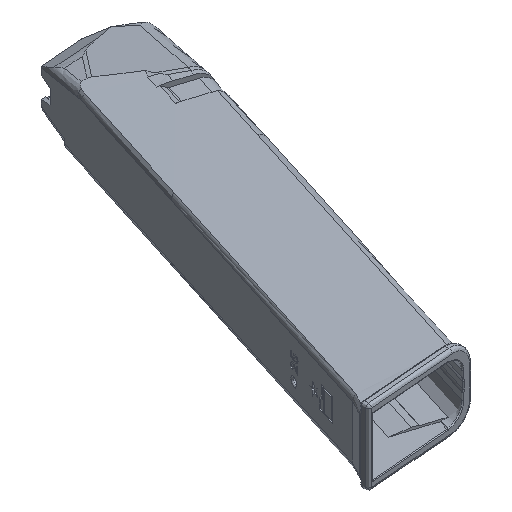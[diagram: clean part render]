
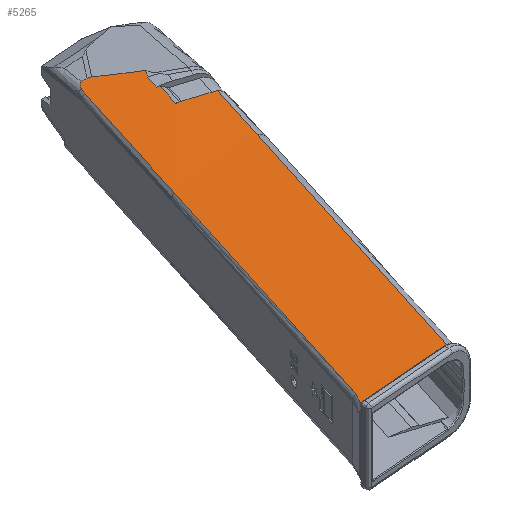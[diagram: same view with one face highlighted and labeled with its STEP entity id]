
A CAD part, isometric view. The second image highlights one B-rep face of the part: STEP entity #5265.
In plain terms, the highlighted cylindrical face has radius 941.89 mm (diameter 1883.78 mm), a partial arc.
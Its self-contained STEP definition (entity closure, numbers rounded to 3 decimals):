
#104=CYLINDRICAL_SURFACE('',#5615,941.89);
#227=ELLIPSE('',#5588,1016.388,941.89);
#237=ELLIPSE('',#5616,945.656,941.89);
#238=ELLIPSE('',#5617,945.656,941.89);
#239=ELLIPSE('',#5618,3587.87,941.89);
#240=ELLIPSE('',#5619,7108.15,941.89);
#241=ELLIPSE('',#5620,5554.111,941.89);
#648=FACE_OUTER_BOUND('',#962,.T.);
#962=EDGE_LOOP('',(#4393,#4394,#4395,#4396,#4397,#4398,#4399,#4400,#4401,
#4402,#4403,#4404,#4405,#4406,#4407,#4408));
#1372=LINE('',#9965,#1813);
#1380=LINE('',#10158,#1821);
#1393=LINE('',#10336,#1834);
#1394=LINE('',#10340,#1835);
#1395=LINE('',#10344,#1836);
#1396=LINE('',#10377,#1837);
#1813=VECTOR('',#6476,10.);
#1821=VECTOR('',#6492,10.);
#1834=VECTOR('',#6521,10.);
#1835=VECTOR('',#6524,10.);
#1836=VECTOR('',#6527,10.);
#1837=VECTOR('',#6534,10.);
#2057=B_SPLINE_CURVE_WITH_KNOTS('',3,(#9683,#9684,#9685,#9686),
 .UNSPECIFIED.,.F.,.F.,(4,4),(10.173,10.658),
 .UNSPECIFIED.);
#2075=B_SPLINE_CURVE_WITH_KNOTS('',3,(#10350,#10351,#10352,#10353,#10354,
#10355),.UNSPECIFIED.,.F.,.F.,(4,2,4),(0.586,0.614,
0.707),.UNSPECIFIED.);
#2076=B_SPLINE_CURVE_WITH_KNOTS('',3,(#10359,#10360,#10361,#10362,#10363,
#10364,#10365,#10366,#10367,#10368),.UNSPECIFIED.,.F.,.F.,(4,2,2,2,4),(-0.263,
-0.24,-0.212,-0.131,0.),
 .UNSPECIFIED.);
#2077=B_SPLINE_CURVE_WITH_KNOTS('',3,(#10370,#10371,#10372,#10373,#10374,
#10375,#10376),.UNSPECIFIED.,.F.,.F.,(4,3,4),(-0.22,-0.108,
0.),.UNSPECIFIED.);
#2423=VERTEX_POINT('',#9680);
#2424=VERTEX_POINT('',#9682);
#2427=VERTEX_POINT('',#9703);
#2458=VERTEX_POINT('',#9964);
#2467=VERTEX_POINT('',#10087);
#2480=VERTEX_POINT('',#10335);
#2481=VERTEX_POINT('',#10337);
#2482=VERTEX_POINT('',#10339);
#2483=VERTEX_POINT('',#10341);
#2484=VERTEX_POINT('',#10343);
#2485=VERTEX_POINT('',#10345);
#2486=VERTEX_POINT('',#10347);
#2487=VERTEX_POINT('',#10349);
#2488=VERTEX_POINT('',#10356);
#2489=VERTEX_POINT('',#10358);
#2490=VERTEX_POINT('',#10369);
#3078=EDGE_CURVE('',#2424,#2423,#2057,.T.);
#3083=EDGE_CURVE('',#2423,#2427,#227,.T.);
#3126=EDGE_CURVE('',#2424,#2458,#1372,.T.);
#3139=EDGE_CURVE('',#2467,#2427,#1380,.T.);
#3158=EDGE_CURVE('',#2480,#2467,#1393,.T.);
#3159=EDGE_CURVE('',#2481,#2480,#237,.F.);
#3160=EDGE_CURVE('',#2482,#2481,#1394,.T.);
#3161=EDGE_CURVE('',#2482,#2483,#238,.F.);
#3162=EDGE_CURVE('',#2483,#2484,#1395,.T.);
#3163=EDGE_CURVE('',#2484,#2485,#239,.T.);
#3164=EDGE_CURVE('',#2485,#2486,#240,.T.);
#3165=EDGE_CURVE('',#2486,#2487,#2075,.T.);
#3166=EDGE_CURVE('',#2487,#2488,#241,.T.);
#3167=EDGE_CURVE('',#2488,#2489,#2076,.T.);
#3168=EDGE_CURVE('',#2489,#2490,#2077,.T.);
#3169=EDGE_CURVE('',#2458,#2490,#1396,.T.);
#4393=ORIENTED_EDGE('',*,*,#3139,.F.);
#4394=ORIENTED_EDGE('',*,*,#3158,.F.);
#4395=ORIENTED_EDGE('',*,*,#3159,.F.);
#4396=ORIENTED_EDGE('',*,*,#3160,.F.);
#4397=ORIENTED_EDGE('',*,*,#3161,.T.);
#4398=ORIENTED_EDGE('',*,*,#3162,.T.);
#4399=ORIENTED_EDGE('',*,*,#3163,.T.);
#4400=ORIENTED_EDGE('',*,*,#3164,.T.);
#4401=ORIENTED_EDGE('',*,*,#3165,.T.);
#4402=ORIENTED_EDGE('',*,*,#3166,.T.);
#4403=ORIENTED_EDGE('',*,*,#3167,.T.);
#4404=ORIENTED_EDGE('',*,*,#3168,.T.);
#4405=ORIENTED_EDGE('',*,*,#3169,.F.);
#4406=ORIENTED_EDGE('',*,*,#3126,.F.);
#4407=ORIENTED_EDGE('',*,*,#3078,.T.);
#4408=ORIENTED_EDGE('',*,*,#3083,.T.);
#5265=ADVANCED_FACE('',(#648),#104,.T.);
#5588=AXIS2_PLACEMENT_3D('',#9704,#6422,#6423);
#5615=AXIS2_PLACEMENT_3D('',#10334,#6519,#6520);
#5616=AXIS2_PLACEMENT_3D('',#10338,#6522,#6523);
#5617=AXIS2_PLACEMENT_3D('',#10342,#6525,#6526);
#5618=AXIS2_PLACEMENT_3D('',#10346,#6528,#6529);
#5619=AXIS2_PLACEMENT_3D('',#10348,#6530,#6531);
#5620=AXIS2_PLACEMENT_3D('',#10357,#6532,#6533);
#6422=DIRECTION('center_axis',(-0.08,0.997,0.));
#6423=DIRECTION('ref_axis',(0.997,0.08,0.));
#6476=DIRECTION('',(0.301,0.954,0.));
#6492=DIRECTION('',(-0.301,-0.954,0.));
#6519=DIRECTION('center_axis',(-0.301,-0.954,0.));
#6520=DIRECTION('ref_axis',(0.032,-0.01,-0.999));
#6521=DIRECTION('',(-0.301,-0.954,0.));
#6522=DIRECTION('center_axis',(-0.299,-0.95,-0.089));
#6523=DIRECTION('ref_axis',(0.029,0.084,-0.996));
#6524=DIRECTION('',(-0.303,-0.953,0.));
#6525=DIRECTION('center_axis',(0.299,0.95,0.089));
#6526=DIRECTION('ref_axis',(0.029,0.084,-0.996));
#6527=DIRECTION('',(0.301,0.954,0.));
#6528=DIRECTION('center_axis',(-0.71,0.499,0.497));
#6529=DIRECTION('ref_axis',(0.505,0.853,-0.135));
#6530=DIRECTION('center_axis',(-0.066,-0.118,-0.991));
#6531=DIRECTION('ref_axis',(0.295,0.946,-0.132));
#6532=DIRECTION('center_axis',(0.015,-0.182,-0.983));
#6533=DIRECTION('ref_axis',(0.308,0.936,-0.169));
#6534=DIRECTION('',(0.301,0.954,0.));
#9680=CARTESIAN_POINT('',(45.536,13.022,-11.841));
#9682=CARTESIAN_POINT('',(47.888,17.613,-11.819));
#9683=CARTESIAN_POINT('Ctrl Pts',(47.888,17.613,-11.819));
#9684=CARTESIAN_POINT('Ctrl Pts',(47.101,16.076,-11.827));
#9685=CARTESIAN_POINT('Ctrl Pts',(46.317,14.545,-11.834));
#9686=CARTESIAN_POINT('Ctrl Pts',(45.536,13.022,-11.841));
#9703=CARTESIAN_POINT('',(76.635,15.509,-11.553));
#9704=CARTESIAN_POINT('Origin',(71.173,15.072,-953.429));
#9964=CARTESIAN_POINT('',(75.744,105.96,-11.819));
#9965=CARTESIAN_POINT('',(38.461,-12.285,-11.819));
#10087=CARTESIAN_POINT('',(105.915,108.373,-11.553));
#10158=CARTESIAN_POINT('',(65.212,-20.72,-11.553));
#10334=CARTESIAN_POINT('Origin',(60.369,-19.193,-953.429));
#10335=CARTESIAN_POINT('',(112.034,127.781,-11.553));
#10336=CARTESIAN_POINT('',(89.773,57.179,-11.553));
#10337=CARTESIAN_POINT('',(101.443,131.119,-11.559));
#10338=CARTESIAN_POINT('Origin',(132.546,209.721,-953.429));
#10339=CARTESIAN_POINT('',(103.824,138.615,-11.559));
#10340=CARTESIAN_POINT('',(103.824,138.615,-11.559));
#10341=CARTESIAN_POINT('',(102.913,138.903,-11.565));
#10342=CARTESIAN_POINT('Origin',(134.911,217.222,-953.429));
#10343=CARTESIAN_POINT('',(104.287,143.262,-11.565));
#10344=CARTESIAN_POINT('',(78.287,60.8,-11.565));
#10345=CARTESIAN_POINT('',(105.874,145.513,-11.559));
#10346=CARTESIAN_POINT('Origin',(653.812,1862.966,-953.429));
#10347=CARTESIAN_POINT('',(95.23,152.794,-11.72));
#10348=CARTESIAN_POINT('Origin',(2229.108,6859.167,-953.429));
#10349=CARTESIAN_POINT('',(94.071,153.153,-11.745));
#10350=CARTESIAN_POINT('Ctrl Pts',(95.23,152.794,-11.72));
#10351=CARTESIAN_POINT('Ctrl Pts',(95.156,152.85,-11.722));
#10352=CARTESIAN_POINT('Ctrl Pts',(95.076,152.899,-11.724));
#10353=CARTESIAN_POINT('Ctrl Pts',(94.718,153.081,-11.732));
#10354=CARTESIAN_POINT('Ctrl Pts',(94.399,153.143,-11.738));
#10355=CARTESIAN_POINT('Ctrl Pts',(94.071,153.153,-11.745));
#10356=CARTESIAN_POINT('',(92.158,153.217,-11.785));
#10357=CARTESIAN_POINT('Origin',(1756.835,5361.31,-953.429));
#10358=CARTESIAN_POINT('',(90.302,151.33,-11.814));
#10359=CARTESIAN_POINT('Ctrl Pts',(92.158,153.217,-11.785));
#10360=CARTESIAN_POINT('Ctrl Pts',(92.083,153.22,-11.787));
#10361=CARTESIAN_POINT('Ctrl Pts',(92.009,153.204,-11.789));
#10362=CARTESIAN_POINT('Ctrl Pts',(91.849,153.144,-11.792));
#10363=CARTESIAN_POINT('Ctrl Pts',(91.762,153.094,-11.793));
#10364=CARTESIAN_POINT('Ctrl Pts',(91.464,152.884,-11.798));
#10365=CARTESIAN_POINT('Ctrl Pts',(91.249,152.652,-11.802));
#10366=CARTESIAN_POINT('Ctrl Pts',(90.801,152.106,-11.808));
#10367=CARTESIAN_POINT('Ctrl Pts',(90.532,151.703,-11.811));
#10368=CARTESIAN_POINT('Ctrl Pts',(90.302,151.33,-11.814));
#10369=CARTESIAN_POINT('',(89.411,149.306,-11.819));
#10370=CARTESIAN_POINT('Ctrl Pts',(90.302,151.33,-11.814));
#10371=CARTESIAN_POINT('Ctrl Pts',(90.108,151.013,-11.816));
#10372=CARTESIAN_POINT('Ctrl Pts',(89.937,150.669,-11.817));
#10373=CARTESIAN_POINT('Ctrl Pts',(89.789,150.328,-11.818));
#10374=CARTESIAN_POINT('Ctrl Pts',(89.647,149.997,-11.819));
#10375=CARTESIAN_POINT('Ctrl Pts',(89.519,149.651,-11.819));
#10376=CARTESIAN_POINT('Ctrl Pts',(89.411,149.306,-11.819));
#10377=CARTESIAN_POINT('',(63.022,65.613,-11.819));
